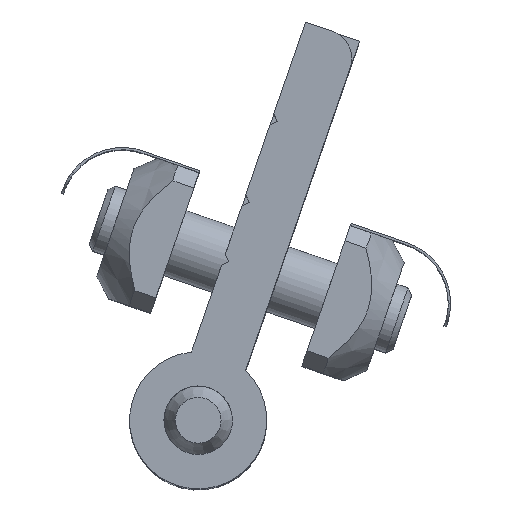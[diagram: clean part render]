
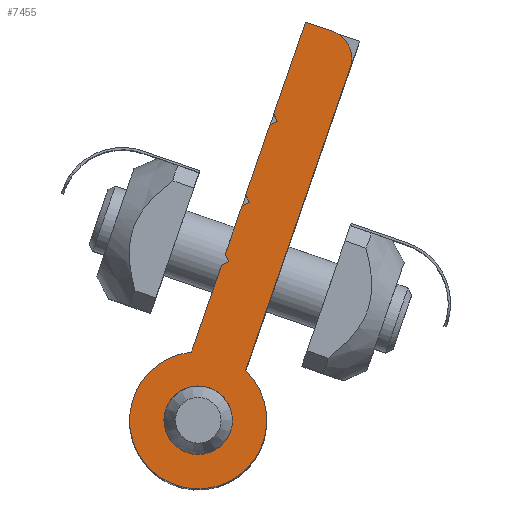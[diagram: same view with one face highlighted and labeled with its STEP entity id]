
A CAD part, top view. The second image highlights one B-rep face of the part: STEP entity #7455.
In plain terms, the highlighted planar face has unit normal (0, 0, 1) as drawn and (0, 0, -1) by its records, which use the part's own axes.
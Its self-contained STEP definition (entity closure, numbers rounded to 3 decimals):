
#6854=CARTESIAN_POINT('',(14.5,-2.5,-16.0));
#6855=VERTEX_POINT('',#6854);
#6862=CARTESIAN_POINT('',(19.0,-2.5,-16.0));
#6863=VERTEX_POINT('',#6862);
#6864=CARTESIAN_POINT('',(14.5,-2.5,-16.0));
#6865=DIRECTION('',(1.0,0.0,0.0));
#6866=VECTOR('',#6865,4.5);
#6867=LINE('',#6864,#6866);
#6868=EDGE_CURVE('',#6855,#6863,#6867,.T.);
#6908=CARTESIAN_POINT('',(14.,-2.0,-16.0));
#6909=VERTEX_POINT('',#6908);
#6916=CARTESIAN_POINT('',(14.,-2.0,-16.0));
#6917=DIRECTION('',(0.707,-0.707,0.0));
#6918=VECTOR('',#6917,0.707);
#6919=LINE('',#6916,#6918);
#6920=EDGE_CURVE('',#6909,#6855,#6919,.T.);
#6956=CARTESIAN_POINT('',(13.5,-2.5,-16.0));
#6957=VERTEX_POINT('',#6956);
#6964=CARTESIAN_POINT('',(13.5,-2.5,-16.0));
#6965=DIRECTION('',(0.707,0.707,0.0));
#6966=VECTOR('',#6965,0.707);
#6967=LINE('',#6964,#6966);
#6968=EDGE_CURVE('',#6957,#6909,#6967,.T.);
#7014=CARTESIAN_POINT('',(3.,0.,-16.0));
#7015=VERTEX_POINT('',#7014);
#7016=CARTESIAN_POINT('',(0.0,0.0,-16.0));
#7017=DIRECTION('',(0.0,0.0,1.0));
#7018=DIRECTION('',(-1.0,0.0,0.0));
#7019=AXIS2_PLACEMENT_3D('',#7016,#7017,#7018);
#7020=CIRCLE('',#7019,3.);
#7021=EDGE_CURVE('',#7015,#7015,#7020,.T.);
#7143=CARTESIAN_POINT('',(5.454,-2.5,-16.0));
#7144=VERTEX_POINT('',#7143);
#7151=CARTESIAN_POINT('',(5.454,-2.5,-16.0));
#7152=DIRECTION('',(1.0,0.0,0.0));
#7153=VECTOR('',#7152,8.046);
#7154=LINE('',#7151,#7153);
#7155=EDGE_CURVE('',#7144,#6957,#7154,.T.);
#7195=CARTESIAN_POINT('',(19.5,-2.0,-16.0));
#7196=VERTEX_POINT('',#7195);
#7197=CARTESIAN_POINT('',(19.0,-2.5,-16.0));
#7198=DIRECTION('',(0.707,0.707,0.0));
#7199=VECTOR('',#7198,0.707);
#7200=LINE('',#7197,#7199);
#7201=EDGE_CURVE('',#6863,#7196,#7200,.T.);
#7219=CARTESIAN_POINT('',(20.,-2.5,-16.0));
#7220=VERTEX_POINT('',#7219);
#7221=CARTESIAN_POINT('',(19.5,-2.0,-16.0));
#7222=DIRECTION('',(0.707,-0.707,0.0));
#7223=VECTOR('',#7222,0.707);
#7224=LINE('',#7221,#7223);
#7225=EDGE_CURVE('',#7196,#7220,#7224,.T.);
#7243=CARTESIAN_POINT('',(26.5,-2.5,-16.0));
#7244=VERTEX_POINT('',#7243);
#7245=CARTESIAN_POINT('',(20.,-2.5,-16.0));
#7246=DIRECTION('',(1.0,0.0,0.0));
#7247=VECTOR('',#7246,6.5);
#7248=LINE('',#7245,#7247);
#7249=EDGE_CURVE('',#7220,#7244,#7248,.T.);
#7267=CARTESIAN_POINT('',(27.0,-2.0,-16.0));
#7268=VERTEX_POINT('',#7267);
#7269=CARTESIAN_POINT('',(26.5,-2.5,-16.0));
#7270=DIRECTION('',(0.707,0.707,0.0));
#7271=VECTOR('',#7270,0.707);
#7272=LINE('',#7269,#7271);
#7273=EDGE_CURVE('',#7244,#7268,#7272,.T.);
#7291=CARTESIAN_POINT('',(27.5,-2.5,-16.0));
#7292=VERTEX_POINT('',#7291);
#7293=CARTESIAN_POINT('',(27.0,-2.0,-16.0));
#7294=DIRECTION('',(0.707,-0.707,0.0));
#7295=VECTOR('',#7294,0.707);
#7296=LINE('',#7293,#7295);
#7297=EDGE_CURVE('',#7268,#7292,#7296,.T.);
#7315=CARTESIAN_POINT('',(36.0,-2.5,-16.0));
#7316=VERTEX_POINT('',#7315);
#7317=CARTESIAN_POINT('',(27.5,-2.5,-16.0));
#7318=DIRECTION('',(1.0,0.0,0.0));
#7319=VECTOR('',#7318,8.5);
#7320=LINE('',#7317,#7319);
#7321=EDGE_CURVE('',#7292,#7316,#7320,.T.);
#7339=CARTESIAN_POINT('',(36.0,0.0,-16.0));
#7340=VERTEX_POINT('',#7339);
#7341=CARTESIAN_POINT('',(36.0,-2.5,-16.0));
#7342=DIRECTION('',(0.0,1.0,0.0));
#7343=VECTOR('',#7342,2.5);
#7344=LINE('',#7341,#7343);
#7345=EDGE_CURVE('',#7316,#7340,#7344,.T.);
#7363=CARTESIAN_POINT('',(33.5,2.5,-16.0));
#7364=VERTEX_POINT('',#7363);
#7365=CARTESIAN_POINT('',(33.5,0.,-16.0));
#7366=DIRECTION('',(0.0,0.0,1.0));
#7367=DIRECTION('',(1.0,0.0,0.0));
#7368=AXIS2_PLACEMENT_3D('',#7365,#7366,#7367);
#7369=CIRCLE('',#7368,2.5);
#7370=EDGE_CURVE('',#7340,#7364,#7369,.T.);
#7388=CARTESIAN_POINT('',(5.454,2.5,-16.0));
#7389=VERTEX_POINT('',#7388);
#7390=CARTESIAN_POINT('',(33.5,2.5,-16.0));
#7391=DIRECTION('',(-1.0,0.0,0.0));
#7392=VECTOR('',#7391,28.046);
#7393=LINE('',#7390,#7392);
#7394=EDGE_CURVE('',#7364,#7389,#7393,.T.);
#7418=CARTESIAN_POINT('',(0.0,0.0,-16.0));
#7419=DIRECTION('',(0.0,0.0,1.));
#7420=DIRECTION('',(0.909,0.417,0.0));
#7421=AXIS2_PLACEMENT_3D('',#7418,#7419,#7420);
#7422=CIRCLE('',#7421,6.);
#7423=EDGE_CURVE('',#7389,#7144,#7422,.T.);
#7431=CARTESIAN_POINT('',(14.389,-0.054,-16.0));
#7432=DIRECTION('',(0.0,0.0,1.0));
#7433=DIRECTION('',(1.0,0.0,0.0));
#7434=AXIS2_PLACEMENT_3D('',#7431,#7432,#7433);
#7435=PLANE('',#7434);
#7436=ORIENTED_EDGE('',*,*,#7155,.F.);
#7437=ORIENTED_EDGE('',*,*,#7423,.F.);
#7438=ORIENTED_EDGE('',*,*,#7394,.F.);
#7439=ORIENTED_EDGE('',*,*,#7370,.F.);
#7440=ORIENTED_EDGE('',*,*,#7345,.F.);
#7441=ORIENTED_EDGE('',*,*,#7321,.F.);
#7442=ORIENTED_EDGE('',*,*,#7297,.F.);
#7443=ORIENTED_EDGE('',*,*,#7273,.F.);
#7444=ORIENTED_EDGE('',*,*,#7249,.F.);
#7445=ORIENTED_EDGE('',*,*,#7225,.F.);
#7446=ORIENTED_EDGE('',*,*,#7201,.F.);
#7447=ORIENTED_EDGE('',*,*,#6868,.F.);
#7448=ORIENTED_EDGE('',*,*,#6920,.F.);
#7449=ORIENTED_EDGE('',*,*,#6968,.F.);
#7450=EDGE_LOOP('',(#7436,#7437,#7438,#7439,#7440,#7441,#7442,#7443,#7444,#7445,#7446,#7447,#7448,#7449));
#7451=FACE_OUTER_BOUND('',#7450,.T.);
#7452=ORIENTED_EDGE('',*,*,#7021,.T.);
#7453=EDGE_LOOP('',(#7452));
#7454=FACE_BOUND('',#7453,.T.);
#7455=ADVANCED_FACE('',(#7451,#7454),#7435,.F.);
